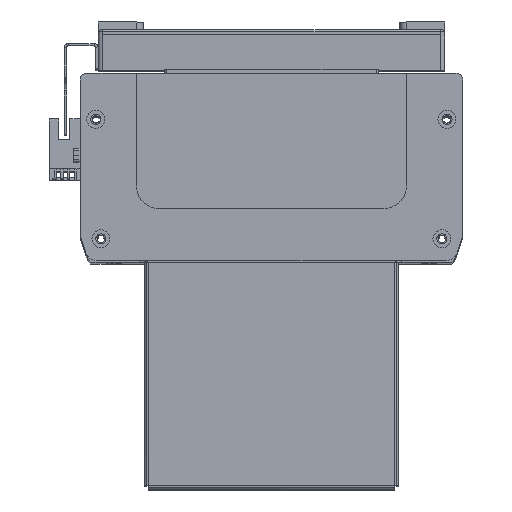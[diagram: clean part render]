
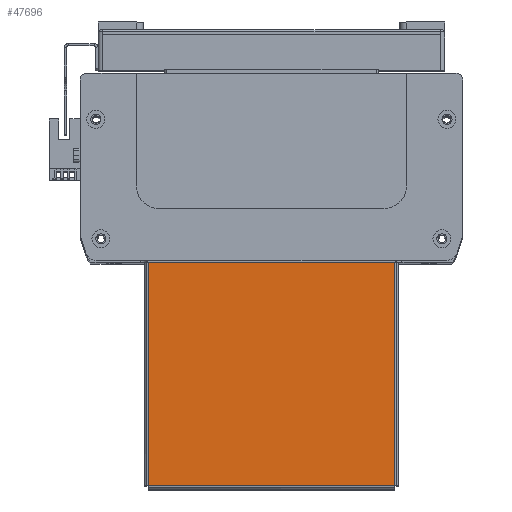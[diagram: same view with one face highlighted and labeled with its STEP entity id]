
A CAD part, top view. The second image highlights one B-rep face of the part: STEP entity #47696.
In plain terms, the highlighted planar face has unit normal (0, 0, 1).
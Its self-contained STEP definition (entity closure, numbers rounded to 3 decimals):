
#7365 = VERTEX_POINT ( 'NONE', #31911 ) ;
#7398 = VERTEX_POINT ( 'NONE', #31929 ) ;
#7449 = VERTEX_POINT ( 'NONE', #31950 ) ;
#7461 = VERTEX_POINT ( 'NONE', #32006 ) ;
#8288 = ORIENTED_EDGE ( 'NONE', *, *, #44554, .T. ) ;
#8295 = ORIENTED_EDGE ( 'NONE', *, *, #44543, .T. ) ;
#10883 = FACE_OUTER_BOUND ( 'NONE', #22993, .T. ) ;
#11756 = AXIS2_PLACEMENT_3D ( 'NONE', #14909, #14895, #14877 ) ;
#12972 = ORIENTED_EDGE ( 'NONE', *, *, #44553, .T. ) ;
#14877 = DIRECTION ( 'NONE',  ( 1., 0., 0. ) ) ;
#14895 = DIRECTION ( 'NONE',  ( 0., 0., 1. ) ) ;
#14907 = PLANE ( 'NONE',  #11756 ) ;
#14909 = CARTESIAN_POINT ( 'NONE',  ( 0., 0., 0. ) ) ;
#22993 = EDGE_LOOP ( 'NONE', ( #8288, #12972, #8295, #29698 ) ) ;
#26136 = VECTOR ( 'NONE', #40440, 1000. ) ;
#26974 = LINE ( 'NONE', #40398, #32381 ) ;
#27102 = LINE ( 'NONE', #40345, #27204 ) ;
#27204 = VECTOR ( 'NONE', #40323, 1000. ) ;
#27355 = LINE ( 'NONE', #40306, #27418 ) ;
#27418 = VECTOR ( 'NONE', #40404, 1000. ) ;
#27634 = LINE ( 'NONE', #40452, #26136 ) ;
#29698 = ORIENTED_EDGE ( 'NONE', *, *, #44556, .T. ) ;
#31911 = CARTESIAN_POINT ( 'NONE',  ( -54.763, 50., 0. ) ) ;
#31929 = CARTESIAN_POINT ( 'NONE',  ( 54.763, 50., 0. ) ) ;
#31950 = CARTESIAN_POINT ( 'NONE',  ( -54.763, -49.263, 0. ) ) ;
#32006 = CARTESIAN_POINT ( 'NONE',  ( 54.763, -49.263, 0. ) ) ;
#32381 = VECTOR ( 'NONE', #40397, 1000. ) ;
#40306 = CARTESIAN_POINT ( 'NONE',  ( -54.793, -49.263, 0. ) ) ;
#40323 = DIRECTION ( 'NONE',  ( 0., 1., 0. ) ) ;
#40345 = CARTESIAN_POINT ( 'NONE',  ( 54.763, -49.293, 0. ) ) ;
#40397 = DIRECTION ( 'NONE',  ( -1., 0., 0. ) ) ;
#40398 = CARTESIAN_POINT ( 'NONE',  ( -55.5, 50., 0. ) ) ;
#40404 = DIRECTION ( 'NONE',  ( 1., 0., 0. ) ) ;
#40440 = DIRECTION ( 'NONE',  ( 0., -1., 0. ) ) ;
#40452 = CARTESIAN_POINT ( 'NONE',  ( -54.763, 50., 0. ) ) ;
#44543 = EDGE_CURVE ( 'NONE', #7461, #7398, #27102, .T. ) ;
#44553 = EDGE_CURVE ( 'NONE', #7449, #7461, #27355, .T. ) ;
#44554 = EDGE_CURVE ( 'NONE', #7365, #7449, #27634, .T. ) ;
#44556 = EDGE_CURVE ( 'NONE', #7398, #7365, #26974, .T. ) ;
#47696 = ADVANCED_FACE ( 'NONE', ( #10883 ), #14907, .T. ) ;
